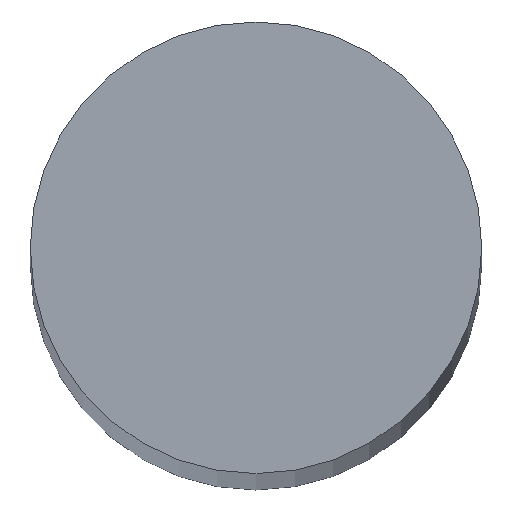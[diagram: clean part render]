
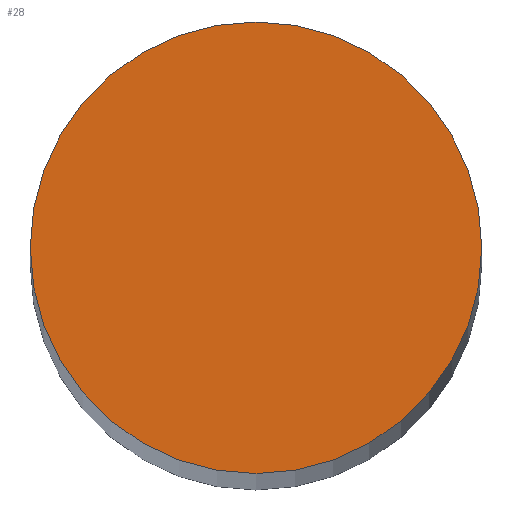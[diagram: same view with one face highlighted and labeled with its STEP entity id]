
A CAD part, top view. The second image highlights one B-rep face of the part: STEP entity #28.
In plain terms, the highlighted planar face has unit normal (0, 0, 1).
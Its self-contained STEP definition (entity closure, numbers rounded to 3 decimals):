
#4 = AXIS2_PLACEMENT_3D ( 'NONE', #131, #24, #106 ) ;
#21 = ORIENTED_EDGE ( 'NONE', *, *, #121, .T. ) ;
#22 = CARTESIAN_POINT ( 'NONE',  ( 0., 0., 25. ) ) ;
#24 = DIRECTION ( 'NONE',  ( 0., 0., 1. ) ) ;
#28 = ADVANCED_FACE ( 'NONE', ( #75 ), #130, .T. ) ;
#34 = CARTESIAN_POINT ( 'NONE',  ( 0.6, 0., 25. ) ) ;
#35 = EDGE_CURVE ( 'NONE', #47, #46, #115, .T. ) ;
#38 = AXIS2_PLACEMENT_3D ( 'NONE', #116, #82, #67 ) ;
#42 = CIRCLE ( 'NONE', #4, 0.6 ) ;
#46 = VERTEX_POINT ( 'NONE', #127 ) ;
#47 = VERTEX_POINT ( 'NONE', #34 ) ;
#67 = DIRECTION ( 'NONE',  ( 1., 0., 0. ) ) ;
#71 = ORIENTED_EDGE ( 'NONE', *, *, #35, .T. ) ;
#75 = FACE_OUTER_BOUND ( 'NONE', #97, .T. ) ;
#78 = AXIS2_PLACEMENT_3D ( 'NONE', #22, #93, #83 ) ;
#82 = DIRECTION ( 'NONE',  ( 0., 0., 1. ) ) ;
#83 = DIRECTION ( 'NONE',  ( 1., 0., 0. ) ) ;
#93 = DIRECTION ( 'NONE',  ( 0., 0., 1. ) ) ;
#97 = EDGE_LOOP ( 'NONE', ( #21, #71 ) ) ;
#106 = DIRECTION ( 'NONE',  ( 1., 0., 0. ) ) ;
#115 = CIRCLE ( 'NONE', #78, 0.6 ) ;
#116 = CARTESIAN_POINT ( 'NONE',  ( 0., 0., 25. ) ) ;
#121 = EDGE_CURVE ( 'NONE', #46, #47, #42, .T. ) ;
#127 = CARTESIAN_POINT ( 'NONE',  ( -0.6, 0., 25. ) ) ;
#130 = PLANE ( 'NONE',  #38 ) ;
#131 = CARTESIAN_POINT ( 'NONE',  ( 0., 0., 25. ) ) ;
